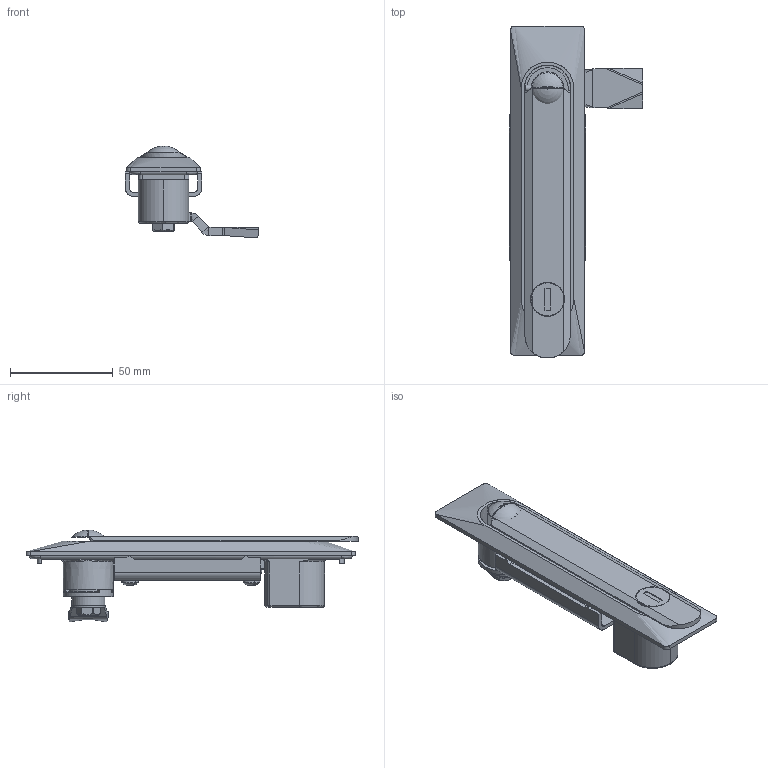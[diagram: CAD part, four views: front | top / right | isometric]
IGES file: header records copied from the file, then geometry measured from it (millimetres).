
Start section: SolidWorks IGES file using analytic representation for surfaces
Global section: file name: D:\尚坤工业图纸\SK1--门锁系列\SK1-086-1\SK1-086-1.IGS; native system: SolidWorks 2015; preprocessor: SolidWorks 2015; author: admin; date: 180813.092345; units: millimetre
Bounding box: 64.64 x 161.25 x 44.66 mm (x, y, z)
Surface area: 45936.7 mm2 (no closed solid volume)
Topology: 0 solids, 0 shells, 474 faces, 5590 edges, 5570 vertices
Faces by surface type: bspline 263, revolution 211
